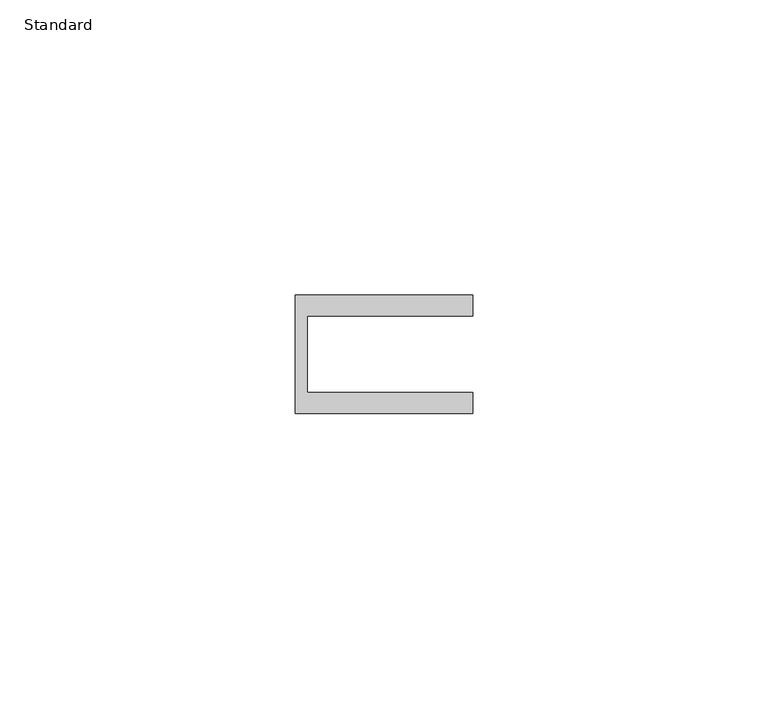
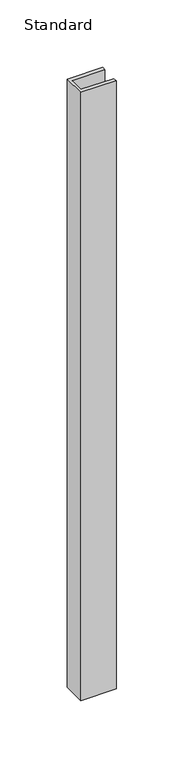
"""IFC4 building model written with IfcOpenShell, lengths in millimetres: furniture geometry, X_Partition-Channel-Duracube-End : Standard."""

from ifc_helpers import new_model, si_unit, frame, origin, place, context, project, spatial, polyline, outline, extrude, source, transform, mapped, element, save


def standard_f43d54f1(model_context):
    return source(origin(), model_context, "Body", "SweptSolid", [
        extrude(outline(polyline([(31.7003264, 0.0), (31.7003264, -13.0), (59.7003264, -13.0), (59.7003264, -16.5), (29.7003264, -16.5), (29.7003264, 3.5), (59.7003264, 3.5), (59.7003264, 0.0), (31.7003264, 0.0)])), frame((0.0, 0.0, 287.0), z_axis=(0.0, 0.0, 1.0), x_axis=(1.0, 0.0, 0.0)), (0.0, 0.0, 1.0), 550.0),
    ])


if __name__ == "__main__":
    model = new_model("IFC4")
    model_context = context("Model", 3, world=origin())
    ifc_project = project(units=[si_unit("LENGTHUNIT", "METRE", prefix="MILLI")], contexts=[model_context])
    site = spatial("IfcSite", under=ifc_project)
    building = spatial("IfcBuilding", under=site)
    placement = place(None, origin())
    standard_shape = standard_f43d54f1(model_context)
    element("IfcFurniture", 1, ObjectType="X_Partition-Channel-Duracube-End : Standard", at=placement, inside=building, context=model_context, shape_type="MappedRepresentation", body=[
        mapped(standard_shape, transform((0.0, 0.0, 0.0), x_axis=(1.0, 0.0, 0.0), y_axis=(0.0, 1.0, 0.0), z_axis=(0.0, 0.0, 1.0))),
    ])
    save(model, "model.ifc")
